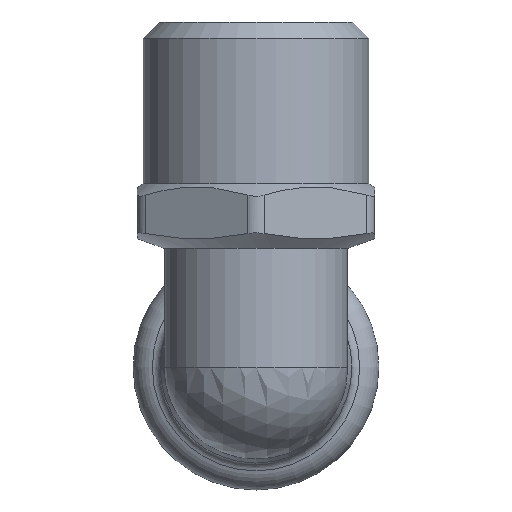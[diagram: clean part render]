
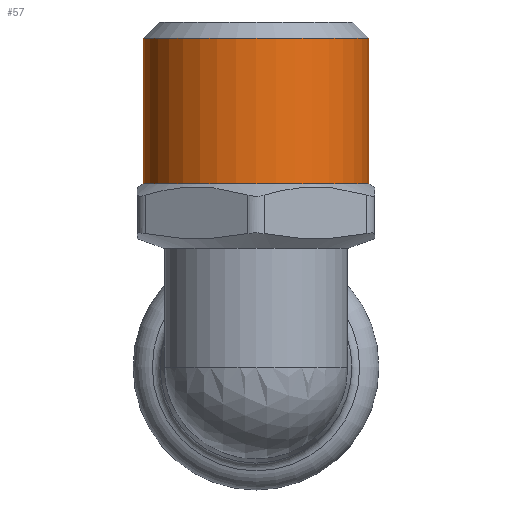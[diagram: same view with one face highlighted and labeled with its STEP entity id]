
A CAD part, front view. The second image highlights one B-rep face of the part: STEP entity #57.
In plain terms, the highlighted cylindrical face has radius 10.477 mm (diameter 20.955 mm), a full revolution.
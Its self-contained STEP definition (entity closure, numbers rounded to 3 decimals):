
#57=ADVANCED_FACE('',(#103,#105),#107,.T.);
#103=FACE_OUTER_BOUND('',#104,.T.);
#104=EDGE_LOOP('',(#440));
#105=FACE_OUTER_BOUND('',#106,.T.);
#106=EDGE_LOOP('',(#441));
#107=CYLINDRICAL_SURFACE('',#108,10.478);
#108=AXIS2_PLACEMENT_3D('',#109,#110,#111);
#109=CARTESIAN_POINT('',(0.,-43.5,17.));
#110=DIRECTION('',(0.,0.,1.));
#111=DIRECTION('',(0.,1.,0.));
#440=ORIENTED_EDGE('',*,*,#606,.F.);
#441=ORIENTED_EDGE('',*,*,#607,.T.);
#606=EDGE_CURVE('',#691,#691,#692,.T.);
#607=EDGE_CURVE('',#693,#693,#694,.T.);
#691=VERTEX_POINT('',#806);
#692=CIRCLE('',#807,10.478);
#693=VERTEX_POINT('',#811);
#694=CIRCLE('',#812,10.478);
#806=CARTESIAN_POINT('',(0.,-33.023,30.5));
#807=AXIS2_PLACEMENT_3D('',#808,#809,#810);
#808=CARTESIAN_POINT('',(0.,-43.5,30.5));
#809=DIRECTION('',(0.,0.,1.));
#810=DIRECTION('',(0.,1.,0.));
#811=CARTESIAN_POINT('',(0.,-33.023,17.));
#812=AXIS2_PLACEMENT_3D('',#813,#814,#815);
#813=CARTESIAN_POINT('',(0.,-43.5,17.));
#814=DIRECTION('',(0.,0.,1.));
#815=DIRECTION('',(0.,1.,0.));
